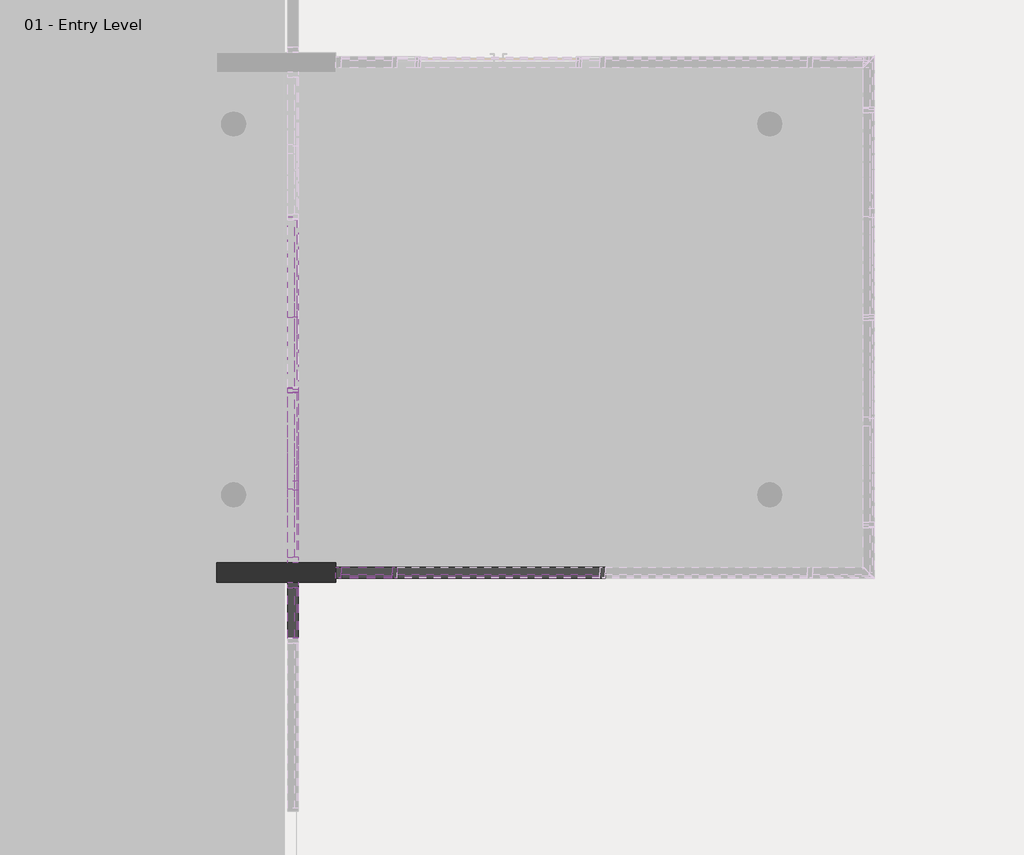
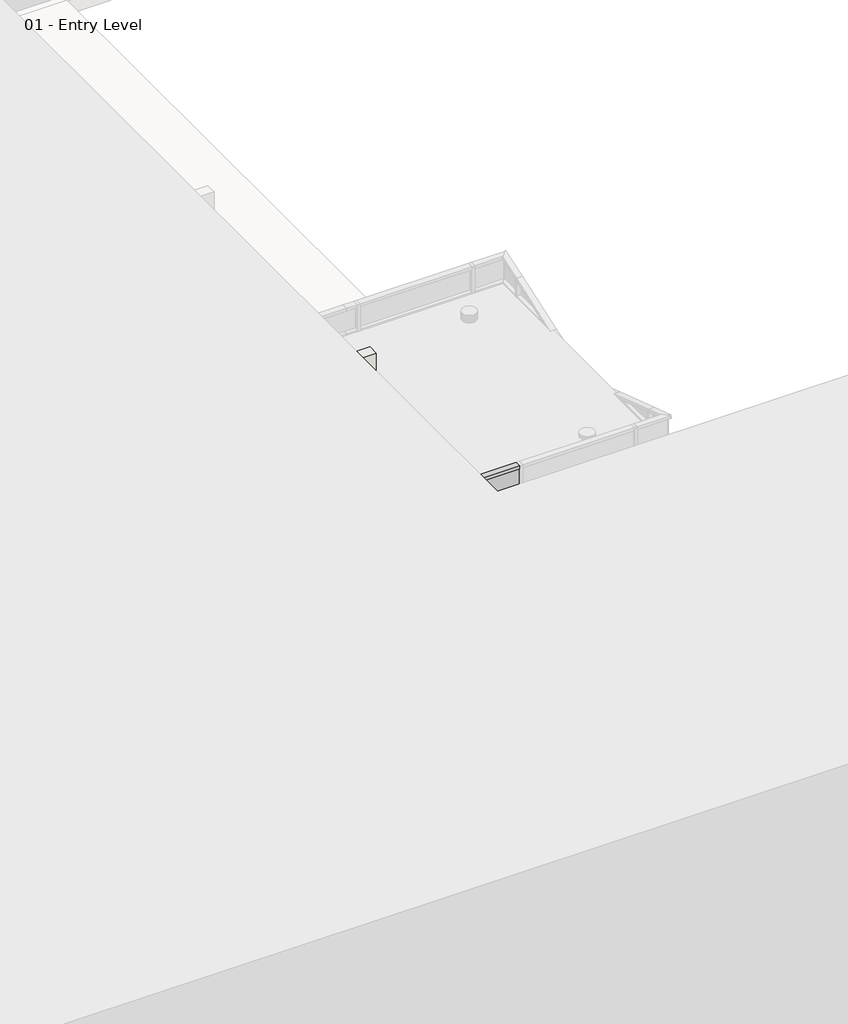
# One storey, part 13 of 34: 80 members, 41 plates, 1 wall.
"""IFC4 building model written with IfcOpenShell, lengths in millimetres."""

from ifc_helpers import new_model, si_unit, origin, origin_with_axes, place, context, project, spatial, polyline, outline, extrude, transform, mapped, element, save
from components import member_2b49869a, member_75074519, member_4f18b2ac, member_7a85b04f, member_fbc627c7, member_27fd6fac, member_2603a644, member_ab5e8816, member_dc06a31d, member_4c11d242, member_97c9a22f, member_e5d39754, member_29dce480, member_6e77e263, member_47bfaf8a, member_b2bde9e6, member_89bfb2f9, member_5aa65f11, member_b5354135, system_panel_glazed_f46199af, system_panel_glazed_10735cc6, system_panel_glazed_1b9d6098, system_panel_glazed_a2373be0, system_panel_glazed_70da479d, system_panel_glazed_6a6e56af, system_panel_glazed_a1864e1b, system_panel_glazed_99a26212, system_panel_glazed_a675a60c, system_panel_glazed_1068a10c, system_panel_glazed_a178916c, system_panel_glazed_0805a858, system_panel_glazed_439dd39a

model = new_model("IFC4")

# Units and contexts
model_context = context("Model", 3, world=origin())
ifc_project = project(units=[si_unit("LENGTHUNIT", "METRE", prefix="MILLI")], contexts=[model_context])

# Site, building, storey
site = spatial("IfcSite", under=ifc_project)
building = spatial("IfcBuilding", under=site)
storey = spatial("IfcBuildingStorey", under=building, Name="01 - Entry Level", Elevation=0.0)

# Members
placement = place(None, origin())
member_shape = member_2b49869a(model_context)
element("IfcMember", 1, ObjectType="Rectangular Mullion : 2.5\" x 5\" rectangular", at=placement, inside=storey, context=model_context, shape_type="MappedRepresentation", body=[
    mapped(member_shape, transform((17184.0207476, 18697.5, 9753.6), x_axis=(0.0, 1.0, 0.0), y_axis=(1.0, 0.0, 0.0), z_axis=(0.0, 0.0, -1.0))),
])
member_2_shape = member_75074519(model_context)
element("IfcMember", 2, ObjectType="Rectangular Mullion : 2.5\" x 5\" rectangular", at=placement, inside=storey, context=model_context, shape_type="MappedRepresentation", body=[
    mapped(member_2_shape, transform((17184.0207476, 16665.5, 10972.8), x_axis=(0.0, -1.0, 0.0), y_axis=(1.0, 0.0, 0.0), z_axis=(0.0, 0.0, 1.0))),
])
element("IfcMember", 3, ObjectType="Rectangular Mullion : 2.5\" x 5\" rectangular", at=placement, inside=storey, context=model_context, shape_type="MappedRepresentation", body=[
    mapped(member_2_shape, transform((17184.0207476, 16436.9, 9753.6), x_axis=(0.0, 1.0, 0.0), y_axis=(1.0, 0.0, 0.0), z_axis=(0.0, 0.0, -1.0))),
])
member_3_shape = member_4f18b2ac(model_context)
element("IfcMember", 4, ObjectType="Rectangular Mullion : 2.5\" x 5\" rectangular", at=placement, inside=storey, context=model_context, shape_type="MappedRepresentation", body=[
    mapped(member_3_shape, transform((17184.0207476, 18665.75, 10972.8), x_axis=(0.0, 0.0, 1.0), y_axis=(1.0, 0.0, 0.0), z_axis=(0.0, 1.0, 0.0))),
])
member_4_shape = member_7a85b04f(model_context)
element("IfcMember", 5, ObjectType="Rectangular Mullion : 2.5\" x 5\" rectangular", at=placement, inside=storey, context=model_context, shape_type="MappedRepresentation", body=[
    mapped(member_4_shape, transform((17184.0207476, 18665.75, 8534.4), x_axis=(0.0, 0.0, 1.0), y_axis=(1.0, 0.0, 0.0), z_axis=(0.0, 1.0, 0.0))),
])
element("IfcMember", 6, ObjectType="Rectangular Mullion : 2.5\" x 5\" rectangular", at=placement, inside=storey, context=model_context, shape_type="MappedRepresentation", body=[
    mapped(member_4_shape, transform((17184.0207476, 18665.75, 9753.6), x_axis=(0.0, 0.0, 1.0), y_axis=(1.0, 0.0, 0.0), z_axis=(0.0, 1.0, 0.0))),
])
element("IfcMember", 7, ObjectType="Rectangular Mullion : 2.5\" x 5\" rectangular", at=placement, inside=storey, context=model_context, shape_type="MappedRepresentation", body=[
    mapped(member_shape, transform((17184.0207476, 18697.5, 7315.2), x_axis=(0.0, 1.0, 0.0), y_axis=(1.0, 0.0, 0.0), z_axis=(0.0, 0.0, -1.0))),
])
element("IfcMember", 8, ObjectType="Rectangular Mullion : 2.5\" x 5\" rectangular", at=placement, inside=storey, context=model_context, shape_type="MappedRepresentation", body=[
    mapped(member_shape, transform((17184.0207476, 18697.5, 8534.4), x_axis=(0.0, 1.0, 0.0), y_axis=(1.0, 0.0, 0.0), z_axis=(0.0, 0.0, -1.0))),
])
member_5_shape = member_fbc627c7(model_context)
element("IfcMember", 9, ObjectType="Rectangular Mullion : 2.5\" x 5\" rectangular", at=placement, inside=storey, context=model_context, shape_type="MappedRepresentation", body=[
    mapped(member_5_shape, transform((17184.0207476, 16665.5, 7598.3874103), x_axis=(0.0, -0.31622776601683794, -0.9486832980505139), y_axis=(1.0, 0.0, 0.0), z_axis=(0.0, -0.9486832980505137, 0.3162277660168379))),
])
member_6_shape = member_27fd6fac(model_context)
element("IfcMember", 10, ObjectType="Rectangular Mullion : 2.5\" x 5\" rectangular", at=placement, inside=storey, context=model_context, shape_type="MappedRepresentation", body=[
    mapped(member_6_shape, transform((17184.0207476, 19548.4, 6637.4207436), x_axis=(0.0, 0.3162277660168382, -0.9486832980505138), y_axis=(1.0, 0.0, 0.0), z_axis=(0.0, -0.9486832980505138, -0.3162277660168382))),
])
member_7_shape = member_2603a644(model_context)
element("IfcMember", 11, ObjectType="Rectangular Mullion : 2.5\" x 5\" rectangular", at=placement, inside=storey, context=model_context, shape_type="MappedRepresentation", body=[
    mapped(member_7_shape, transform((17184.0207476, 18697.5, 6921.0540769), x_axis=(0.0, -0.31622776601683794, -0.9486832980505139), y_axis=(1.0, 0.0, 0.0), z_axis=(0.0, -0.9486832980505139, 0.31622776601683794))),
])
member_8_shape = member_ab5e8816(model_context)
element("IfcMember", 12, ObjectType="Rectangular Mullion : 2.5\" x 5\" rectangular", at=placement, inside=storey, context=model_context, shape_type="MappedRepresentation", body=[
    mapped(member_8_shape, transform((17184.0207476, 17515.0622308, 7315.2), x_axis=(0.0, -0.31622776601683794, -0.9486832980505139), y_axis=(1.0, 0.0, 0.0), z_axis=(0.0, -0.9486832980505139, 0.31622776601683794))),
])
member_9_shape = member_dc06a31d(model_context)
element("IfcMember", 13, ObjectType="Rectangular Mullion : 2.5\" x 5\" rectangular", at=placement, inside=storey, context=model_context, shape_type="MappedRepresentation", body=[
    mapped(member_9_shape, transform((17184.0207476, 18665.75, 7315.2), x_axis=(0.0, 0.0, 1.0), y_axis=(1.0, 0.0, 0.0), z_axis=(0.0, 1.0, 0.0))),
])
member_10_shape = member_4c11d242(model_context)
element("IfcMember", 14, ObjectType="Rectangular Mullion : 2.5\" x 5\" rectangular", at=placement, inside=storey, context=model_context, shape_type="MappedRepresentation", body=[
    mapped(member_10_shape, transform((17184.0207476, 18697.5, 6921.0540769), x_axis=(0.0, 1.0, 0.0), y_axis=(1.0, 0.0, 0.0), z_axis=(0.0, 0.0, -1.0))),
])
element("IfcMember", 15, ObjectType="Rectangular Mullion : 2.5\" x 5\" rectangular", at=placement, inside=storey, context=model_context, shape_type="MappedRepresentation", body=[
    mapped(member_2_shape, transform((17184.0207476, 16436.9, 0.0), x_axis=(0.0, 1.0, 0.0), y_axis=(1.0, 0.0, 0.0), z_axis=(0.0, 0.0, -1.0))),
])
element("IfcMember", 16, ObjectType="Rectangular Mullion : 2.5\" x 5\" rectangular", at=placement, inside=storey, context=model_context, shape_type="MappedRepresentation", body=[
    mapped(member_2_shape, transform((17184.0207476, 16436.9, 1219.2), x_axis=(0.0, 1.0, 0.0), y_axis=(1.0, 0.0, 0.0), z_axis=(0.0, 0.0, -1.0))),
])
element("IfcMember", 17, ObjectType="Rectangular Mullion : 2.5\" x 5\" rectangular", at=placement, inside=storey, context=model_context, shape_type="MappedRepresentation", body=[
    mapped(member_2_shape, transform((17184.0207476, 16436.9, 2438.4), x_axis=(0.0, 1.0, 0.0), y_axis=(1.0, 0.0, 0.0), z_axis=(0.0, 0.0, -1.0))),
])
element("IfcMember", 18, ObjectType="Rectangular Mullion : 2.5\" x 5\" rectangular", at=placement, inside=storey, context=model_context, shape_type="MappedRepresentation", body=[
    mapped(member_2_shape, transform((17184.0207476, 16436.9, 3657.6), x_axis=(0.0, 1.0, 0.0), y_axis=(1.0, 0.0, 0.0), z_axis=(0.0, 0.0, -1.0))),
])
element("IfcMember", 19, ObjectType="Rectangular Mullion : 2.5\" x 5\" rectangular", at=placement, inside=storey, context=model_context, shape_type="MappedRepresentation", body=[
    mapped(member_2_shape, transform((17184.0207476, 16436.9, 4876.8), x_axis=(0.0, 1.0, 0.0), y_axis=(1.0, 0.0, 0.0), z_axis=(0.0, 0.0, -1.0))),
])
element("IfcMember", 20, ObjectType="Rectangular Mullion : 2.5\" x 5\" rectangular", at=placement, inside=storey, context=model_context, shape_type="MappedRepresentation", body=[
    mapped(member_2_shape, transform((17184.0207476, 16436.9, 6096.0), x_axis=(0.0, 1.0, 0.0), y_axis=(1.0, 0.0, 0.0), z_axis=(0.0, 0.0, -1.0))),
])
element("IfcMember", 21, ObjectType="Rectangular Mullion : 2.5\" x 5\" rectangular", at=placement, inside=storey, context=model_context, shape_type="MappedRepresentation", body=[
    mapped(member_2_shape, transform((17184.0207476, 16436.9, 7315.2), x_axis=(0.0, 1.0, 0.0), y_axis=(1.0, 0.0, 0.0), z_axis=(0.0, 0.0, -1.0))),
])
element("IfcMember", 22, ObjectType="Rectangular Mullion : 2.5\" x 5\" rectangular", at=placement, inside=storey, context=model_context, shape_type="MappedRepresentation", body=[
    mapped(member_2_shape, transform((17184.0207476, 16436.9, 8534.4), x_axis=(0.0, 1.0, 0.0), y_axis=(1.0, 0.0, 0.0), z_axis=(0.0, 0.0, -1.0))),
])
element("IfcMember", 23, ObjectType="Rectangular Mullion : 2.5\" x 5\" rectangular", at=placement, inside=storey, context=model_context, shape_type="MappedRepresentation", body=[
    mapped(member_2_shape, transform((17184.0207476, 16665.5, 9753.6), x_axis=(0.0, -1.0, 0.0), y_axis=(1.0, 0.0, 0.0), z_axis=(0.0, 0.0, 1.0))),
])
member_11_shape = member_97c9a22f(model_context)
element("IfcMember", 24, ObjectType="Rectangular Mullion : 2.5\" x 5\" rectangular", at=placement, inside=storey, context=model_context, shape_type="MappedRepresentation", body=[
    mapped(member_11_shape, transform((17184.0207476, 16665.5, 8534.4), x_axis=(0.0, -1.0, 0.0), y_axis=(1.0, 0.0, 0.0), z_axis=(0.0, 0.0, 1.0))),
])
member_12_shape = member_e5d39754(model_context)
element("IfcMember", 25, ObjectType="Rectangular Mullion : 2.5\" x 5\" rectangular", at=placement, inside=storey, context=model_context, shape_type="MappedRepresentation", body=[
    mapped(member_12_shape, transform((17184.0207476, 16373.4, 10972.8), x_axis=(0.0, 0.0, 1.0), y_axis=(1.0, 0.0, 0.0), z_axis=(0.0, 1.0, 0.0))),
])
member_13_shape = member_29dce480(model_context)
element("IfcMember", 26, ObjectType="Rectangular Mullion : 2.5\" x 5\" rectangular", at=placement, inside=storey, context=model_context, shape_type="MappedRepresentation", body=[
    mapped(member_13_shape, transform((17184.0207476, 16373.4, 1219.2), x_axis=(0.0, 0.0, 1.0), y_axis=(1.0, 0.0, 0.0), z_axis=(0.0, 1.0, 0.0))),
])
element("IfcMember", 27, ObjectType="Rectangular Mullion : 2.5\" x 5\" rectangular", at=placement, inside=storey, context=model_context, shape_type="MappedRepresentation", body=[
    mapped(member_13_shape, transform((17184.0207476, 16373.4, 2438.4), x_axis=(0.0, 0.0, 1.0), y_axis=(1.0, 0.0, 0.0), z_axis=(0.0, 1.0, 0.0))),
])
element("IfcMember", 28, ObjectType="Rectangular Mullion : 2.5\" x 5\" rectangular", at=placement, inside=storey, context=model_context, shape_type="MappedRepresentation", body=[
    mapped(member_13_shape, transform((17184.0207476, 16373.4, 3657.6), x_axis=(0.0, 0.0, 1.0), y_axis=(1.0, 0.0, 0.0), z_axis=(0.0, 1.0, 0.0))),
])
element("IfcMember", 29, ObjectType="Rectangular Mullion : 2.5\" x 5\" rectangular", at=placement, inside=storey, context=model_context, shape_type="MappedRepresentation", body=[
    mapped(member_13_shape, transform((17184.0207476, 16373.4, 4876.8), x_axis=(0.0, 0.0, 1.0), y_axis=(1.0, 0.0, 0.0), z_axis=(0.0, 1.0, 0.0))),
])
element("IfcMember", 30, ObjectType="Rectangular Mullion : 2.5\" x 5\" rectangular", at=placement, inside=storey, context=model_context, shape_type="MappedRepresentation", body=[
    mapped(member_13_shape, transform((17184.0207476, 16373.4, 6096.0), x_axis=(0.0, 0.0, 1.0), y_axis=(1.0, 0.0, 0.0), z_axis=(0.0, 1.0, 0.0))),
])
element("IfcMember", 31, ObjectType="Rectangular Mullion : 2.5\" x 5\" rectangular", at=placement, inside=storey, context=model_context, shape_type="MappedRepresentation", body=[
    mapped(member_13_shape, transform((17184.0207476, 16373.4, 7315.2), x_axis=(0.0, 0.0, 1.0), y_axis=(1.0, 0.0, 0.0), z_axis=(0.0, 1.0, 0.0))),
])
element("IfcMember", 32, ObjectType="Rectangular Mullion : 2.5\" x 5\" rectangular", at=placement, inside=storey, context=model_context, shape_type="MappedRepresentation", body=[
    mapped(member_13_shape, transform((17184.0207476, 16373.4, 8534.4), x_axis=(0.0, 0.0, 1.0), y_axis=(1.0, 0.0, 0.0), z_axis=(0.0, 1.0, 0.0))),
])
element("IfcMember", 33, ObjectType="Rectangular Mullion : 2.5\" x 5\" rectangular", at=placement, inside=storey, context=model_context, shape_type="MappedRepresentation", body=[
    mapped(member_13_shape, transform((17184.0207476, 16373.4, 9753.6), x_axis=(0.0, 0.0, 1.0), y_axis=(1.0, 0.0, 0.0), z_axis=(0.0, 1.0, 0.0))),
])
member_14_shape = member_6e77e263(model_context)
element("IfcMember", 34, ObjectType="Rectangular Mullion : 2.5\" x 5\" rectangular", at=placement, inside=storey, context=model_context, shape_type="MappedRepresentation", body=[
    mapped(member_14_shape, transform((18379.5615197, 16551.2, 0.0), x_axis=(1.0, 0.0, 0.0), y_axis=(0.0, -1.0, 0.0), z_axis=(0.0, 0.0, -1.0))),
])
element("IfcMember", 35, ObjectType="Rectangular Mullion : 2.5\" x 5\" rectangular", at=placement, inside=storey, context=model_context, shape_type="MappedRepresentation", body=[
    mapped(member_14_shape, transform((20817.9615197, 16551.2, 0.0), x_axis=(1.0, 0.0, 0.0), y_axis=(0.0, -1.0, 0.0), z_axis=(0.0, 0.0, -1.0))),
])
element("IfcMember", 36, ObjectType="Rectangular Mullion : 2.5\" x 5\" rectangular", at=placement, inside=storey, context=model_context, shape_type="MappedRepresentation", body=[
    mapped(member_14_shape, transform((18379.5615197, 16551.2, 609.6), x_axis=(1.0, 0.0, 0.0), y_axis=(0.0, -1.0, 0.0), z_axis=(0.0, 0.0, -1.0))),
])
element("IfcMember", 37, ObjectType="Rectangular Mullion : 2.5\" x 5\" rectangular", at=placement, inside=storey, context=model_context, shape_type="MappedRepresentation", body=[
    mapped(member_14_shape, transform((20817.9615197, 16551.2, 609.6), x_axis=(1.0, 0.0, 0.0), y_axis=(0.0, -1.0, 0.0), z_axis=(0.0, 0.0, -1.0))),
])
element("IfcMember", 38, ObjectType="Rectangular Mullion : 2.5\" x 5\" rectangular", at=placement, inside=storey, context=model_context, shape_type="MappedRepresentation", body=[
    mapped(member_14_shape, transform((18379.5615197, 16551.2, 1219.2), x_axis=(1.0, 0.0, 0.0), y_axis=(0.0, -1.0, 0.0), z_axis=(0.0, 0.0, -1.0))),
])
element("IfcMember", 39, ObjectType="Rectangular Mullion : 2.5\" x 5\" rectangular", at=placement, inside=storey, context=model_context, shape_type="MappedRepresentation", body=[
    mapped(member_14_shape, transform((18379.5615197, 16551.2, 1828.8), x_axis=(1.0, 0.0, 0.0), y_axis=(0.0, -1.0, 0.0), z_axis=(0.0, 0.0, -1.0))),
])
element("IfcMember", 40, ObjectType="Rectangular Mullion : 2.5\" x 5\" rectangular", at=placement, inside=storey, context=model_context, shape_type="MappedRepresentation", body=[
    mapped(member_14_shape, transform((18379.5615197, 16551.2, 2438.4), x_axis=(1.0, 0.0, 0.0), y_axis=(0.0, -1.0, 0.0), z_axis=(0.0, 0.0, -1.0))),
])
element("IfcMember", 41, ObjectType="Rectangular Mullion : 2.5\" x 5\" rectangular", at=placement, inside=storey, context=model_context, shape_type="MappedRepresentation", body=[
    mapped(member_14_shape, transform((18379.5615197, 16551.2, 3048.0), x_axis=(1.0, 0.0, 0.0), y_axis=(0.0, -1.0, 0.0), z_axis=(0.0, 0.0, -1.0))),
])
element("IfcMember", 42, ObjectType="Rectangular Mullion : 2.5\" x 5\" rectangular", at=placement, inside=storey, context=model_context, shape_type="MappedRepresentation", body=[
    mapped(member_14_shape, transform((18379.5615197, 16551.2, 3657.6), x_axis=(1.0, 0.0, 0.0), y_axis=(0.0, -1.0, 0.0), z_axis=(0.0, 0.0, -1.0))),
])
element("IfcMember", 43, ObjectType="Rectangular Mullion : 2.5\" x 5\" rectangular", at=placement, inside=storey, context=model_context, shape_type="MappedRepresentation", body=[
    mapped(member_14_shape, transform((18379.5615197, 16551.2, 4267.2), x_axis=(1.0, 0.0, 0.0), y_axis=(0.0, -1.0, 0.0), z_axis=(0.0, 0.0, -1.0))),
])
element("IfcMember", 44, ObjectType="Rectangular Mullion : 2.5\" x 5\" rectangular", at=placement, inside=storey, context=model_context, shape_type="MappedRepresentation", body=[
    mapped(member_14_shape, transform((18379.5615197, 16551.2, 4876.8), x_axis=(1.0, 0.0, 0.0), y_axis=(0.0, -1.0, 0.0), z_axis=(0.0, 0.0, -1.0))),
])
element("IfcMember", 45, ObjectType="Rectangular Mullion : 2.5\" x 5\" rectangular", at=placement, inside=storey, context=model_context, shape_type="MappedRepresentation", body=[
    mapped(member_14_shape, transform((18379.5615197, 16551.2, 5486.4), x_axis=(1.0, 0.0, 0.0), y_axis=(0.0, -1.0, 0.0), z_axis=(0.0, 0.0, -1.0))),
])
element("IfcMember", 46, ObjectType="Rectangular Mullion : 2.5\" x 5\" rectangular", at=placement, inside=storey, context=model_context, shape_type="MappedRepresentation", body=[
    mapped(member_14_shape, transform((18379.5615197, 16551.2, 6096.0), x_axis=(1.0, 0.0, 0.0), y_axis=(0.0, -1.0, 0.0), z_axis=(0.0, 0.0, -1.0))),
])
member_15_shape = member_47bfaf8a(model_context)
element("IfcMember", 47, ObjectType="Rectangular Mullion : 2.5\" x 5\" rectangular", at=placement, inside=storey, context=model_context, shape_type="MappedRepresentation", body=[
    mapped(member_15_shape, transform((17688.9115197, 16551.2, 609.6), x_axis=(-1.0, 0.0, 0.0), y_axis=(0.0, -1.0, 0.0), z_axis=(0.0, 0.0, 1.0))),
])
element("IfcMember", 48, ObjectType="Rectangular Mullion : 2.5\" x 5\" rectangular", at=placement, inside=storey, context=model_context, shape_type="MappedRepresentation", body=[
    mapped(member_15_shape, transform((17688.9115197, 16551.2, 1219.2), x_axis=(-1.0, 0.0, 0.0), y_axis=(0.0, -1.0, 0.0), z_axis=(0.0, 0.0, 1.0))),
])
element("IfcMember", 49, ObjectType="Rectangular Mullion : 2.5\" x 5\" rectangular", at=placement, inside=storey, context=model_context, shape_type="MappedRepresentation", body=[
    mapped(member_15_shape, transform((17688.9115197, 16551.2, 1828.8), x_axis=(-1.0, 0.0, 0.0), y_axis=(0.0, -1.0, 0.0), z_axis=(0.0, 0.0, 1.0))),
])
element("IfcMember", 50, ObjectType="Rectangular Mullion : 2.5\" x 5\" rectangular", at=placement, inside=storey, context=model_context, shape_type="MappedRepresentation", body=[
    mapped(member_15_shape, transform((17688.9115197, 16551.2, 2438.4), x_axis=(-1.0, 0.0, 0.0), y_axis=(0.0, -1.0, 0.0), z_axis=(0.0, 0.0, 1.0))),
])
element("IfcMember", 51, ObjectType="Rectangular Mullion : 2.5\" x 5\" rectangular", at=placement, inside=storey, context=model_context, shape_type="MappedRepresentation", body=[
    mapped(member_15_shape, transform((17688.9115197, 16551.2, 3048.0), x_axis=(-1.0, 0.0, 0.0), y_axis=(0.0, -1.0, 0.0), z_axis=(0.0, 0.0, 1.0))),
])
element("IfcMember", 52, ObjectType="Rectangular Mullion : 2.5\" x 5\" rectangular", at=placement, inside=storey, context=model_context, shape_type="MappedRepresentation", body=[
    mapped(member_15_shape, transform((17688.9115197, 16551.2, 3657.6), x_axis=(-1.0, 0.0, 0.0), y_axis=(0.0, -1.0, 0.0), z_axis=(0.0, 0.0, 1.0))),
])
element("IfcMember", 53, ObjectType="Rectangular Mullion : 2.5\" x 5\" rectangular", at=placement, inside=storey, context=model_context, shape_type="MappedRepresentation", body=[
    mapped(member_15_shape, transform((17688.9115197, 16551.2, 4267.2), x_axis=(-1.0, 0.0, 0.0), y_axis=(0.0, -1.0, 0.0), z_axis=(0.0, 0.0, 1.0))),
])
element("IfcMember", 54, ObjectType="Rectangular Mullion : 2.5\" x 5\" rectangular", at=placement, inside=storey, context=model_context, shape_type="MappedRepresentation", body=[
    mapped(member_15_shape, transform((17688.9115197, 16551.2, 4876.8), x_axis=(-1.0, 0.0, 0.0), y_axis=(0.0, -1.0, 0.0), z_axis=(0.0, 0.0, 1.0))),
])
element("IfcMember", 55, ObjectType="Rectangular Mullion : 2.5\" x 5\" rectangular", at=placement, inside=storey, context=model_context, shape_type="MappedRepresentation", body=[
    mapped(member_15_shape, transform((17688.9115197, 16551.2, 5486.4), x_axis=(-1.0, 0.0, 0.0), y_axis=(0.0, -1.0, 0.0), z_axis=(0.0, 0.0, 1.0))),
])
element("IfcMember", 56, ObjectType="Rectangular Mullion : 2.5\" x 5\" rectangular", at=placement, inside=storey, context=model_context, shape_type="MappedRepresentation", body=[
    mapped(member_15_shape, transform((17688.9115197, 16551.2, 6096.0), x_axis=(-1.0, 0.0, 0.0), y_axis=(0.0, -1.0, 0.0), z_axis=(0.0, 0.0, 1.0))),
])
element("IfcMember", 57, ObjectType="Rectangular Mullion : 2.5\" x 5\" rectangular", at=placement, inside=storey, context=model_context, shape_type="MappedRepresentation", body=[
    mapped(member_15_shape, transform((17688.9115197, 16551.2, 6705.6), x_axis=(-1.0, 0.0, 0.0), y_axis=(0.0, -1.0, 0.0), z_axis=(0.0, 0.0, 1.0))),
])
member_16_shape = member_b2bde9e6(model_context)
element("IfcMember", 58, ObjectType="Rectangular Mullion : 2.5\" x 5\" rectangular", at=placement, inside=storey, context=model_context, shape_type="MappedRepresentation", body=[
    mapped(member_16_shape, transform((18411.3115197, 16551.2, 0.0), x_axis=(0.0, 0.0, -1.0), y_axis=(0.0, -1.0, 0.0), z_axis=(-1.0, 0.0, 0.0))),
])
element("IfcMember", 59, ObjectType="Rectangular Mullion : 2.5\" x 5\" rectangular", at=placement, inside=storey, context=model_context, shape_type="MappedRepresentation", body=[
    mapped(member_16_shape, transform((20849.7115197, 16551.2, 0.0), x_axis=(0.0, 0.0, -1.0), y_axis=(0.0, -1.0, 0.0), z_axis=(-1.0, 0.0, 0.0))),
])
member_17_shape = member_89bfb2f9(model_context)
element("IfcMember", 60, ObjectType="Rectangular Mullion : 2.5\" x 5\" rectangular", at=placement, inside=storey, context=model_context, shape_type="MappedRepresentation", body=[
    mapped(member_17_shape, transform((20786.2115197, 16551.2, 609.6), x_axis=(0.0, 0.0, 1.0), y_axis=(0.0, -1.0, 0.0), z_axis=(1.0, 0.0, 0.0))),
])
element("IfcMember", 61, ObjectType="Rectangular Mullion : 2.5\" x 5\" rectangular", at=placement, inside=storey, context=model_context, shape_type="MappedRepresentation", body=[
    mapped(member_17_shape, transform((20786.2115197, 16551.2, 1219.2), x_axis=(0.0, 0.0, 1.0), y_axis=(0.0, -1.0, 0.0), z_axis=(1.0, 0.0, 0.0))),
])
element("IfcMember", 62, ObjectType="Rectangular Mullion : 2.5\" x 5\" rectangular", at=placement, inside=storey, context=model_context, shape_type="MappedRepresentation", body=[
    mapped(member_17_shape, transform((20786.2115197, 16551.2, 1828.8), x_axis=(0.0, 0.0, 1.0), y_axis=(0.0, -1.0, 0.0), z_axis=(1.0, 0.0, 0.0))),
])
element("IfcMember", 63, ObjectType="Rectangular Mullion : 2.5\" x 5\" rectangular", at=placement, inside=storey, context=model_context, shape_type="MappedRepresentation", body=[
    mapped(member_17_shape, transform((20786.2115197, 16551.2, 2438.4), x_axis=(0.0, 0.0, 1.0), y_axis=(0.0, -1.0, 0.0), z_axis=(1.0, 0.0, 0.0))),
])
element("IfcMember", 64, ObjectType="Rectangular Mullion : 2.5\" x 5\" rectangular", at=placement, inside=storey, context=model_context, shape_type="MappedRepresentation", body=[
    mapped(member_17_shape, transform((20786.2115197, 16551.2, 3048.0), x_axis=(0.0, 0.0, 1.0), y_axis=(0.0, -1.0, 0.0), z_axis=(1.0, 0.0, 0.0))),
])
member_18_shape = member_5aa65f11(model_context)
element("IfcMember", 65, ObjectType="Rectangular Mullion : 2.5\" x 5\" rectangular", at=placement, inside=storey, context=model_context, shape_type="MappedRepresentation", body=[
    mapped(member_18_shape, transform((18347.8115197, 16551.2, 7315.2), x_axis=(0.0, 0.0, 1.0), y_axis=(0.0, -1.0, 0.0), z_axis=(1.0, 0.0, 0.0))),
])
element("IfcMember", 66, ObjectType="Rectangular Mullion : 2.5\" x 5\" rectangular", at=placement, inside=storey, context=model_context, shape_type="MappedRepresentation", body=[
    mapped(member_18_shape, transform((17752.4115197, 16551.2, 0.0), x_axis=(0.0, 0.0, -1.0), y_axis=(0.0, -1.0, 0.0), z_axis=(-1.0, 0.0, 0.0))),
])
element("IfcMember", 67, ObjectType="Rectangular Mullion : 2.5\" x 5\" rectangular", at=placement, inside=storey, context=model_context, shape_type="MappedRepresentation", body=[
    mapped(member_16_shape, transform((20786.2115197, 16551.2, 7315.2), x_axis=(0.0, 0.0, 1.0), y_axis=(0.0, -1.0, 0.0), z_axis=(1.0, 0.0, 0.0))),
])
member_19_shape = member_b5354135(model_context)
element("IfcMember", 68, ObjectType="Rectangular Mullion : 2.5\" x 5\" rectangular", at=placement, inside=storey, context=model_context, shape_type="MappedRepresentation", body=[
    mapped(member_19_shape, transform((18347.8115197, 16551.2, 609.6), x_axis=(0.0, 0.0, 1.0), y_axis=(0.0, -1.0, 0.0), z_axis=(1.0, 0.0, 0.0))),
])
element("IfcMember", 69, ObjectType="Rectangular Mullion : 2.5\" x 5\" rectangular", at=placement, inside=storey, context=model_context, shape_type="MappedRepresentation", body=[
    mapped(member_19_shape, transform((18347.8115197, 16551.2, 1219.2), x_axis=(0.0, 0.0, 1.0), y_axis=(0.0, -1.0, 0.0), z_axis=(1.0, 0.0, 0.0))),
])
element("IfcMember", 70, ObjectType="Rectangular Mullion : 2.5\" x 5\" rectangular", at=placement, inside=storey, context=model_context, shape_type="MappedRepresentation", body=[
    mapped(member_19_shape, transform((18347.8115197, 16551.2, 1828.8), x_axis=(0.0, 0.0, 1.0), y_axis=(0.0, -1.0, 0.0), z_axis=(1.0, 0.0, 0.0))),
])
element("IfcMember", 71, ObjectType="Rectangular Mullion : 2.5\" x 5\" rectangular", at=placement, inside=storey, context=model_context, shape_type="MappedRepresentation", body=[
    mapped(member_19_shape, transform((18347.8115197, 16551.2, 2438.4), x_axis=(0.0, 0.0, 1.0), y_axis=(0.0, -1.0, 0.0), z_axis=(1.0, 0.0, 0.0))),
])
element("IfcMember", 72, ObjectType="Rectangular Mullion : 2.5\" x 5\" rectangular", at=placement, inside=storey, context=model_context, shape_type="MappedRepresentation", body=[
    mapped(member_19_shape, transform((18347.8115197, 16551.2, 3048.0), x_axis=(0.0, 0.0, 1.0), y_axis=(0.0, -1.0, 0.0), z_axis=(1.0, 0.0, 0.0))),
])
element("IfcMember", 73, ObjectType="Rectangular Mullion : 2.5\" x 5\" rectangular", at=placement, inside=storey, context=model_context, shape_type="MappedRepresentation", body=[
    mapped(member_19_shape, transform((18347.8115197, 16551.2, 3657.6), x_axis=(0.0, 0.0, 1.0), y_axis=(0.0, -1.0, 0.0), z_axis=(1.0, 0.0, 0.0))),
])
element("IfcMember", 74, ObjectType="Rectangular Mullion : 2.5\" x 5\" rectangular", at=placement, inside=storey, context=model_context, shape_type="MappedRepresentation", body=[
    mapped(member_19_shape, transform((18347.8115197, 16551.2, 4267.2), x_axis=(0.0, 0.0, 1.0), y_axis=(0.0, -1.0, 0.0), z_axis=(1.0, 0.0, 0.0))),
])
element("IfcMember", 75, ObjectType="Rectangular Mullion : 2.5\" x 5\" rectangular", at=placement, inside=storey, context=model_context, shape_type="MappedRepresentation", body=[
    mapped(member_19_shape, transform((18347.8115197, 16551.2, 4876.8), x_axis=(0.0, 0.0, 1.0), y_axis=(0.0, -1.0, 0.0), z_axis=(1.0, 0.0, 0.0))),
])
element("IfcMember", 76, ObjectType="Rectangular Mullion : 2.5\" x 5\" rectangular", at=placement, inside=storey, context=model_context, shape_type="MappedRepresentation", body=[
    mapped(member_19_shape, transform((18347.8115197, 16551.2, 5486.4), x_axis=(0.0, 0.0, 1.0), y_axis=(0.0, -1.0, 0.0), z_axis=(1.0, 0.0, 0.0))),
])
element("IfcMember", 77, ObjectType="Rectangular Mullion : 2.5\" x 5\" rectangular", at=placement, inside=storey, context=model_context, shape_type="MappedRepresentation", body=[
    mapped(member_19_shape, transform((18347.8115197, 16551.2, 6096.0), x_axis=(0.0, 0.0, 1.0), y_axis=(0.0, -1.0, 0.0), z_axis=(1.0, 0.0, 0.0))),
])
element("IfcMember", 78, ObjectType="Rectangular Mullion : 2.5\" x 5\" rectangular", at=placement, inside=storey, context=model_context, shape_type="MappedRepresentation", body=[
    mapped(member_19_shape, transform((18347.8115197, 16551.2, 6705.6), x_axis=(0.0, 0.0, 1.0), y_axis=(0.0, -1.0, 0.0), z_axis=(1.0, 0.0, 0.0))),
])
element("IfcMember", 79, ObjectType="Rectangular Mullion : 2.5\" x 5\" rectangular", at=placement, inside=storey, context=model_context, shape_type="MappedRepresentation", body=[
    mapped(member_14_shape, transform((18379.5615197, 16551.2, 6705.6), x_axis=(1.0, 0.0, 0.0), y_axis=(0.0, -1.0, 0.0), z_axis=(0.0, 0.0, -1.0))),
])
element("IfcMember", 80, ObjectType="Rectangular Mullion : 2.5\" x 5\" rectangular", at=placement, inside=storey, context=model_context, shape_type="MappedRepresentation", body=[
    mapped(member_15_shape, transform((17688.9115197, 16551.2, 7315.2), x_axis=(-1.0, 0.0, 0.0), y_axis=(0.0, -1.0, 0.0), z_axis=(0.0, 0.0, 1.0))),
])

# Plates
system_panel_glazed_shape = system_panel_glazed_f46199af(model_context)
element("IfcPlate", 81, ObjectType="System Panel : Glazed", at=placement, inside=storey, context=model_context, shape_type="MappedRepresentation", body=[
    mapped(system_panel_glazed_shape, transform((17184.0207476, 17697.375, 9785.35), x_axis=(0.0, 1.0, 0.0), y_axis=(-1.0, 0.0, 0.0), z_axis=(0.0, 0.0, 1.0))),
])
system_panel_glazed_2_shape = system_panel_glazed_10735cc6(model_context)
element("IfcPlate", 82, ObjectType="System Panel : Glazed", at=placement, inside=storey, context=model_context, shape_type="MappedRepresentation", body=[
    mapped(system_panel_glazed_2_shape, transform((17184.0207476, 18238.4334311, 6998.5722874), x_axis=(0.0, 1.0, 0.0), y_axis=(-1.0, 0.0, 0.0), z_axis=(0.0, 0.0, 1.0))),
])
system_panel_glazed_3_shape = system_panel_glazed_1b9d6098(model_context)
element("IfcPlate", 83, ObjectType="System Panel : Glazed", at=placement, inside=storey, context=model_context, shape_type="MappedRepresentation", body=[
    mapped(system_panel_glazed_3_shape, transform((17184.0207476, 19713.5, 9785.35), x_axis=(0.0, 1.0, 0.0), y_axis=(-1.0, 0.0, 0.0), z_axis=(0.0, 0.0, 1.0))),
])
system_panel_glazed_4_shape = system_panel_glazed_a2373be0(model_context)
element("IfcPlate", 84, ObjectType="System Panel : Glazed", at=placement, inside=storey, context=model_context, shape_type="MappedRepresentation", body=[
    mapped(system_panel_glazed_4_shape, transform((17184.0207476, 17697.375, 8566.15), x_axis=(0.0, 1.0, 0.0), y_axis=(-1.0, 0.0, 0.0), z_axis=(0.0, 0.0, 1.0))),
])
system_panel_glazed_5_shape = system_panel_glazed_70da479d(model_context)
element("IfcPlate", 85, ObjectType="System Panel : Glazed", at=placement, inside=storey, context=model_context, shape_type="MappedRepresentation", body=[
    mapped(system_panel_glazed_5_shape, transform((17184.0207476, 19713.5, 7346.95), x_axis=(0.0, 1.0, 0.0), y_axis=(-1.0, 0.0, 0.0), z_axis=(0.0, 0.0, 1.0))),
])
element("IfcPlate", 86, ObjectType="System Panel : Glazed", at=placement, inside=storey, context=model_context, shape_type="MappedRepresentation", body=[
    mapped(system_panel_glazed_5_shape, transform((17184.0207476, 19713.5, 8566.15), x_axis=(0.0, 1.0, 0.0), y_axis=(-1.0, 0.0, 0.0), z_axis=(0.0, 0.0, 1.0))),
])
system_panel_glazed_6_shape = system_panel_glazed_6a6e56af(model_context)
element("IfcPlate", 87, ObjectType="System Panel : Glazed", at=placement, inside=storey, context=model_context, shape_type="MappedRepresentation", body=[
    mapped(system_panel_glazed_6_shape, transform((17184.0207476, 19713.5, 6704.3556207), x_axis=(0.0, 1.0, 0.0), y_axis=(-1.0, 0.0, 0.0), z_axis=(0.0, 0.0, 1.0))),
])
system_panel_glazed_7_shape = system_panel_glazed_a1864e1b(model_context)
element("IfcPlate", 88, ObjectType="System Panel : Glazed", at=placement, inside=storey, context=model_context, shape_type="MappedRepresentation", body=[
    mapped(system_panel_glazed_7_shape, transform((17184.0207476, 17697.375, 7346.95), x_axis=(0.0, 1.0, 0.0), y_axis=(-1.0, 0.0, 0.0), z_axis=(0.0, 0.0, 1.0))),
])
system_panel_glazed_8_shape = system_panel_glazed_99a26212(model_context)
element("IfcPlate", 89, ObjectType="System Panel : Glazed", at=placement, inside=storey, context=model_context, shape_type="MappedRepresentation", body=[
    mapped(system_panel_glazed_8_shape, transform((17184.0207476, 16078.125, 63.5), x_axis=(0.0, 1.0, 0.0), y_axis=(-1.0, 0.0, 0.0), z_axis=(0.0, 0.0, 1.0))),
])
element("IfcPlate", 90, ObjectType="System Panel : Glazed", at=placement, inside=storey, context=model_context, shape_type="MappedRepresentation", body=[
    mapped(system_panel_glazed_8_shape, transform((17184.0207476, 16078.125, 9785.35), x_axis=(0.0, 1.0, 0.0), y_axis=(-1.0, 0.0, 0.0), z_axis=(0.0, 0.0, 1.0))),
])
system_panel_glazed_9_shape = system_panel_glazed_a675a60c(model_context)
element("IfcPlate", 91, ObjectType="System Panel : Glazed", at=placement, inside=storey, context=model_context, shape_type="MappedRepresentation", body=[
    mapped(system_panel_glazed_9_shape, transform((17184.0207476, 16078.125, 1250.95), x_axis=(0.0, 1.0, 0.0), y_axis=(-1.0, 0.0, 0.0), z_axis=(0.0, 0.0, 1.0))),
])
element("IfcPlate", 92, ObjectType="System Panel : Glazed", at=placement, inside=storey, context=model_context, shape_type="MappedRepresentation", body=[
    mapped(system_panel_glazed_9_shape, transform((17184.0207476, 16078.125, 2470.15), x_axis=(0.0, 1.0, 0.0), y_axis=(-1.0, 0.0, 0.0), z_axis=(0.0, 0.0, 1.0))),
])
element("IfcPlate", 93, ObjectType="System Panel : Glazed", at=placement, inside=storey, context=model_context, shape_type="MappedRepresentation", body=[
    mapped(system_panel_glazed_9_shape, transform((17184.0207476, 16078.125, 3689.35), x_axis=(0.0, 1.0, 0.0), y_axis=(-1.0, 0.0, 0.0), z_axis=(0.0, 0.0, 1.0))),
])
element("IfcPlate", 94, ObjectType="System Panel : Glazed", at=placement, inside=storey, context=model_context, shape_type="MappedRepresentation", body=[
    mapped(system_panel_glazed_9_shape, transform((17184.0207476, 16078.125, 4908.55), x_axis=(0.0, 1.0, 0.0), y_axis=(-1.0, 0.0, 0.0), z_axis=(0.0, 0.0, 1.0))),
])
element("IfcPlate", 95, ObjectType="System Panel : Glazed", at=placement, inside=storey, context=model_context, shape_type="MappedRepresentation", body=[
    mapped(system_panel_glazed_9_shape, transform((17184.0207476, 16078.125, 6127.75), x_axis=(0.0, 1.0, 0.0), y_axis=(-1.0, 0.0, 0.0), z_axis=(0.0, 0.0, 1.0))),
])
element("IfcPlate", 96, ObjectType="System Panel : Glazed", at=placement, inside=storey, context=model_context, shape_type="MappedRepresentation", body=[
    mapped(system_panel_glazed_9_shape, transform((17184.0207476, 16078.125, 7346.95), x_axis=(0.0, 1.0, 0.0), y_axis=(-1.0, 0.0, 0.0), z_axis=(0.0, 0.0, 1.0))),
])
element("IfcPlate", 97, ObjectType="System Panel : Glazed", at=placement, inside=storey, context=model_context, shape_type="MappedRepresentation", body=[
    mapped(system_panel_glazed_9_shape, transform((17184.0207476, 16078.125, 8566.15), x_axis=(0.0, 1.0, 0.0), y_axis=(-1.0, 0.0, 0.0), z_axis=(0.0, 0.0, 1.0))),
])
system_panel_glazed_10_shape = system_panel_glazed_1068a10c(model_context)
element("IfcPlate", 98, ObjectType="System Panel : Glazed", at=placement, inside=storey, context=model_context, shape_type="MappedRepresentation", body=[
    mapped(system_panel_glazed_10_shape, transform((19598.7615197, 16551.2, 63.5), x_axis=(1.0, 0.0, 0.0), y_axis=(0.0, 1.0, 0.0), z_axis=(0.0, 0.0, 1.0))),
])
element("IfcPlate", 99, ObjectType="System Panel : Glazed", at=placement, inside=storey, context=model_context, shape_type="MappedRepresentation", body=[
    mapped(system_panel_glazed_10_shape, transform((19598.7615197, 16551.2, 6737.35), x_axis=(1.0, 0.0, 0.0), y_axis=(0.0, 1.0, 0.0), z_axis=(0.0, 0.0, 1.0))),
])
system_panel_glazed_11_shape = system_panel_glazed_a178916c(model_context)
element("IfcPlate", 100, ObjectType="System Panel : Glazed", at=placement, inside=storey, context=model_context, shape_type="MappedRepresentation", body=[
    mapped(system_panel_glazed_11_shape, transform((19598.7615197, 16551.2, 641.35), x_axis=(1.0, 0.0, 0.0), y_axis=(0.0, 1.0, 0.0), z_axis=(0.0, 0.0, 1.0))),
])
element("IfcPlate", 101, ObjectType="System Panel : Glazed", at=placement, inside=storey, context=model_context, shape_type="MappedRepresentation", body=[
    mapped(system_panel_glazed_11_shape, transform((19598.7615197, 16551.2, 1250.95), x_axis=(1.0, 0.0, 0.0), y_axis=(0.0, 1.0, 0.0), z_axis=(0.0, 0.0, 1.0))),
])
element("IfcPlate", 102, ObjectType="System Panel : Glazed", at=placement, inside=storey, context=model_context, shape_type="MappedRepresentation", body=[
    mapped(system_panel_glazed_11_shape, transform((19598.7615197, 16551.2, 1860.55), x_axis=(1.0, 0.0, 0.0), y_axis=(0.0, 1.0, 0.0), z_axis=(0.0, 0.0, 1.0))),
])
element("IfcPlate", 103, ObjectType="System Panel : Glazed", at=placement, inside=storey, context=model_context, shape_type="MappedRepresentation", body=[
    mapped(system_panel_glazed_11_shape, transform((19598.7615197, 16551.2, 2470.15), x_axis=(1.0, 0.0, 0.0), y_axis=(0.0, 1.0, 0.0), z_axis=(0.0, 0.0, 1.0))),
])
element("IfcPlate", 104, ObjectType="System Panel : Glazed", at=placement, inside=storey, context=model_context, shape_type="MappedRepresentation", body=[
    mapped(system_panel_glazed_11_shape, transform((19598.7615197, 16551.2, 3079.75), x_axis=(1.0, 0.0, 0.0), y_axis=(0.0, 1.0, 0.0), z_axis=(0.0, 0.0, 1.0))),
])
element("IfcPlate", 105, ObjectType="System Panel : Glazed", at=placement, inside=storey, context=model_context, shape_type="MappedRepresentation", body=[
    mapped(system_panel_glazed_11_shape, transform((19598.7615197, 16551.2, 3689.35), x_axis=(1.0, 0.0, 0.0), y_axis=(0.0, 1.0, 0.0), z_axis=(0.0, 0.0, 1.0))),
])
element("IfcPlate", 106, ObjectType="System Panel : Glazed", at=placement, inside=storey, context=model_context, shape_type="MappedRepresentation", body=[
    mapped(system_panel_glazed_11_shape, transform((19598.7615197, 16551.2, 4298.95), x_axis=(1.0, 0.0, 0.0), y_axis=(0.0, 1.0, 0.0), z_axis=(0.0, 0.0, 1.0))),
])
element("IfcPlate", 107, ObjectType="System Panel : Glazed", at=placement, inside=storey, context=model_context, shape_type="MappedRepresentation", body=[
    mapped(system_panel_glazed_11_shape, transform((19598.7615197, 16551.2, 4908.55), x_axis=(1.0, 0.0, 0.0), y_axis=(0.0, 1.0, 0.0), z_axis=(0.0, 0.0, 1.0))),
])
element("IfcPlate", 108, ObjectType="System Panel : Glazed", at=placement, inside=storey, context=model_context, shape_type="MappedRepresentation", body=[
    mapped(system_panel_glazed_11_shape, transform((19598.7615197, 16551.2, 5518.15), x_axis=(1.0, 0.0, 0.0), y_axis=(0.0, 1.0, 0.0), z_axis=(0.0, 0.0, 1.0))),
])
element("IfcPlate", 109, ObjectType="System Panel : Glazed", at=placement, inside=storey, context=model_context, shape_type="MappedRepresentation", body=[
    mapped(system_panel_glazed_11_shape, transform((19598.7615197, 16551.2, 6127.75), x_axis=(1.0, 0.0, 0.0), y_axis=(0.0, 1.0, 0.0), z_axis=(0.0, 0.0, 1.0))),
])
system_panel_glazed_12_shape = system_panel_glazed_0805a858(model_context)
element("IfcPlate", 110, ObjectType="System Panel : Glazed", at=placement, inside=storey, context=model_context, shape_type="MappedRepresentation", body=[
    mapped(system_panel_glazed_12_shape, transform((18050.1115197, 16551.2, 63.5), x_axis=(1.0, 0.0, 0.0), y_axis=(0.0, 1.0, 0.0), z_axis=(0.0, 0.0, 1.0))),
])
element("IfcPlate", 111, ObjectType="System Panel : Glazed", at=placement, inside=storey, context=model_context, shape_type="MappedRepresentation", body=[
    mapped(system_panel_glazed_12_shape, transform((18050.1115197, 16551.2, 6737.35), x_axis=(1.0, 0.0, 0.0), y_axis=(0.0, 1.0, 0.0), z_axis=(0.0, 0.0, 1.0))),
])
system_panel_glazed_13_shape = system_panel_glazed_439dd39a(model_context)
element("IfcPlate", 112, ObjectType="System Panel : Glazed", at=placement, inside=storey, context=model_context, shape_type="MappedRepresentation", body=[
    mapped(system_panel_glazed_13_shape, transform((18050.1115197, 16551.2, 641.35), x_axis=(1.0, 0.0, 0.0), y_axis=(0.0, 1.0, 0.0), z_axis=(0.0, 0.0, 1.0))),
])
element("IfcPlate", 113, ObjectType="System Panel : Glazed", at=placement, inside=storey, context=model_context, shape_type="MappedRepresentation", body=[
    mapped(system_panel_glazed_13_shape, transform((18050.1115197, 16551.2, 1250.95), x_axis=(1.0, 0.0, 0.0), y_axis=(0.0, 1.0, 0.0), z_axis=(0.0, 0.0, 1.0))),
])
element("IfcPlate", 114, ObjectType="System Panel : Glazed", at=placement, inside=storey, context=model_context, shape_type="MappedRepresentation", body=[
    mapped(system_panel_glazed_13_shape, transform((18050.1115197, 16551.2, 1860.55), x_axis=(1.0, 0.0, 0.0), y_axis=(0.0, 1.0, 0.0), z_axis=(0.0, 0.0, 1.0))),
])
element("IfcPlate", 115, ObjectType="System Panel : Glazed", at=placement, inside=storey, context=model_context, shape_type="MappedRepresentation", body=[
    mapped(system_panel_glazed_13_shape, transform((18050.1115197, 16551.2, 2470.15), x_axis=(1.0, 0.0, 0.0), y_axis=(0.0, 1.0, 0.0), z_axis=(0.0, 0.0, 1.0))),
])
element("IfcPlate", 116, ObjectType="System Panel : Glazed", at=placement, inside=storey, context=model_context, shape_type="MappedRepresentation", body=[
    mapped(system_panel_glazed_13_shape, transform((18050.1115197, 16551.2, 3079.75), x_axis=(1.0, 0.0, 0.0), y_axis=(0.0, 1.0, 0.0), z_axis=(0.0, 0.0, 1.0))),
])
element("IfcPlate", 117, ObjectType="System Panel : Glazed", at=placement, inside=storey, context=model_context, shape_type="MappedRepresentation", body=[
    mapped(system_panel_glazed_13_shape, transform((18050.1115197, 16551.2, 3689.35), x_axis=(1.0, 0.0, 0.0), y_axis=(0.0, 1.0, 0.0), z_axis=(0.0, 0.0, 1.0))),
])
element("IfcPlate", 118, ObjectType="System Panel : Glazed", at=placement, inside=storey, context=model_context, shape_type="MappedRepresentation", body=[
    mapped(system_panel_glazed_13_shape, transform((18050.1115197, 16551.2, 4298.95), x_axis=(1.0, 0.0, 0.0), y_axis=(0.0, 1.0, 0.0), z_axis=(0.0, 0.0, 1.0))),
])
element("IfcPlate", 119, ObjectType="System Panel : Glazed", at=placement, inside=storey, context=model_context, shape_type="MappedRepresentation", body=[
    mapped(system_panel_glazed_13_shape, transform((18050.1115197, 16551.2, 4908.55), x_axis=(1.0, 0.0, 0.0), y_axis=(0.0, 1.0, 0.0), z_axis=(0.0, 0.0, 1.0))),
])
element("IfcPlate", 120, ObjectType="System Panel : Glazed", at=placement, inside=storey, context=model_context, shape_type="MappedRepresentation", body=[
    mapped(system_panel_glazed_13_shape, transform((18050.1115197, 16551.2, 5518.15), x_axis=(1.0, 0.0, 0.0), y_axis=(0.0, 1.0, 0.0), z_axis=(0.0, 0.0, 1.0))),
])
element("IfcPlate", 121, ObjectType="System Panel : Glazed", at=placement, inside=storey, context=model_context, shape_type="MappedRepresentation", body=[
    mapped(system_panel_glazed_13_shape, transform((18050.1115197, 16551.2, 6127.75), x_axis=(1.0, 0.0, 0.0), y_axis=(0.0, 1.0, 0.0), z_axis=(0.0, 0.0, 1.0))),
])

# Wall
element("IfcWall", 122, ObjectType="9\" concrete", at=placement, inside=storey, context=model_context, shape_type="SweptSolid", body=[
    extrude(outline(polyline([(17688.9115197, 16436.9), (16288.9115197, 16436.9), (16288.9115197, 16665.5), (17688.9115197, 16665.5), (17688.9115197, 16436.9)])), origin_with_axes(), (0.0, 0.0, 1.0), 10972.8),
])

save(model, "model.ifc")
